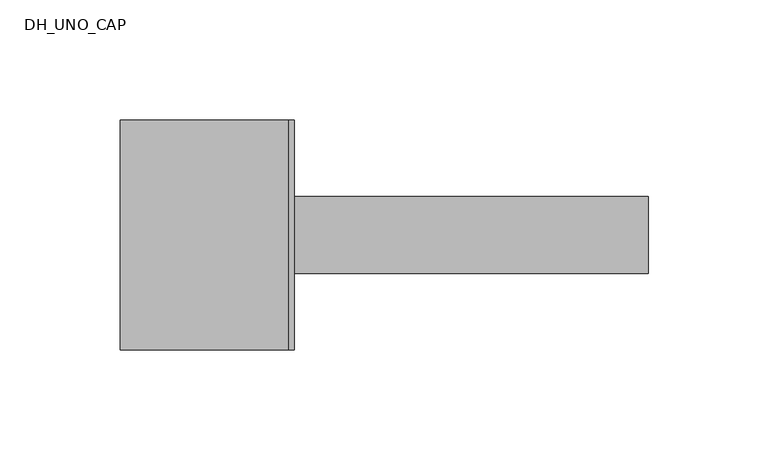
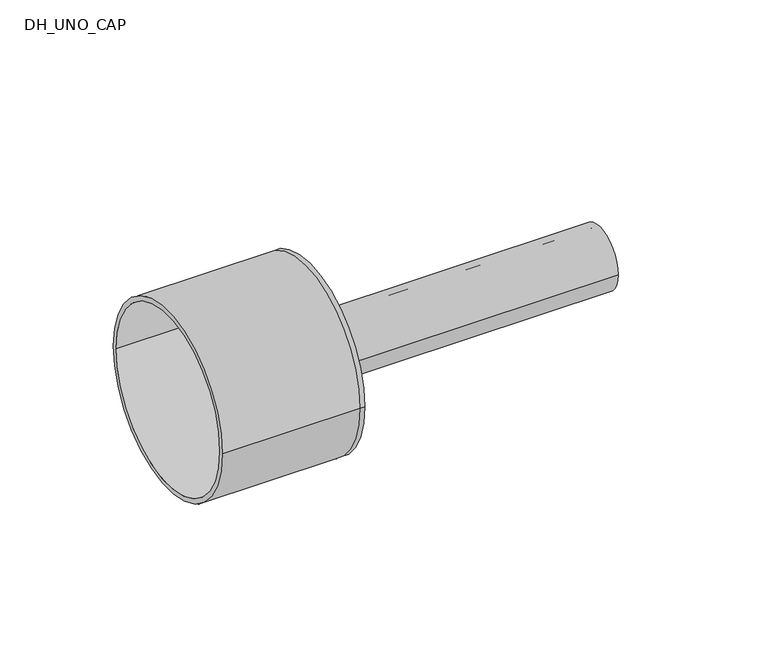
"""IFC4 building model written with IfcOpenShell, lengths in millimetres: pipe fitting geometry, DH_UNO_CAP : RAUTHERMEX UNO + 11 Heating - Solid Cap."""

import ifcopenshell
import ifcopenshell.guid

model = None  # the IFC model being written
_history = None  # IfcOwnerHistory: only IFC2X3 demands one
_inside = {}  # id of a spatial element -> (the spatial element, [elements in it])
_under = {}  # id of a project, library or spatial element -> (it, [spatial elements below it])
_declared = {}  # id of a project -> (the project, [libraries it declares])
_typed = {}  # id of a type object -> (the type object, [elements of that type])
_made_of = {}  # id of a material, layer set ... -> (it, [elements and type objects made of it])


def new_model(schema):
    """Start an empty IFC model of exactly this schema.

    Asked for "IFC4X3", IfcOpenShell would pick the latest addendum, in which some entities
    have other attributes; the version numbers below select the first issue.
    IFC2X3 requires an IfcOwnerHistory on every rooted entity: one is made here for all.
    """
    global model, _history
    if schema == "IFC4X3":
        model = ifcopenshell.file(schema_version=(4, 3, 0, 0))
    else:
        model = ifcopenshell.file(schema=schema)
    _inside.clear()
    _under.clear()
    _declared.clear()
    _typed.clear()
    _made_of.clear()
    _history = None
    if model.schema == "IFC2X3":
        org = make("IfcOrganization", Name="unknown")
        user = make(
            "IfcPersonAndOrganization",
            ThePerson=make("IfcPerson", FamilyName="unknown"),
            TheOrganization=org,
        )
        app = make(
            "IfcApplication",
            ApplicationDeveloper=org,
            Version="unknown",
            ApplicationFullName="unknown",
            ApplicationIdentifier="unknown",
        )
        _history = make(
            "IfcOwnerHistory",
            OwningUser=user,
            OwningApplication=app,
            ChangeAction="ADDED",
            CreationDate=0,
        )
    return model


def make(cls, **values):
    """One entity of the class cls with the attributes given. An attribute that is None is left unset."""
    return model.create_entity(
        cls, **{name: value for name, value in values.items() if value is not None}
    )


def rooted(cls, **values):
    """An entity with a GlobalId (a new one), such as an element, a storey or a relation."""
    return make(cls, GlobalId=ifcopenshell.guid.new(), OwnerHistory=_history, **values)


def si_unit(unit_type, name, prefix=None):
    """IfcSIUnit, for example si_unit("LENGTHUNIT", "METRE", prefix="MILLI")."""
    return make("IfcSIUnit", UnitType=unit_type, Prefix=prefix, Name=name)


def assignment(units):
    """IfcUnitAssignment: the units of a project."""
    return None if units is None else make("IfcUnitAssignment", Units=units)


def point(xyz):
    """IfcCartesianPoint."""
    return None if xyz is None else make("IfcCartesianPoint", Coordinates=xyz)


def direction(xyz):
    """IfcDirection."""
    return None if xyz is None else make("IfcDirection", DirectionRatios=xyz)


def frame(location, z_axis=None, x_axis=None):
    """IfcAxis2Placement3D, a coordinate frame: its origin and axes. An axis left out is left unset."""
    return make(
        "IfcAxis2Placement3D",
        Location=point(location),
        Axis=direction(z_axis),
        RefDirection=direction(x_axis),
    )


def frame_2d(location, x_axis=None):
    """IfcAxis2Placement2D, a coordinate frame in the plane: its origin and x axis."""
    return make(
        "IfcAxis2Placement2D", Location=point(location), RefDirection=direction(x_axis)
    )


def origin():
    """The frame at (0, 0, 0) with its axes left unset."""
    return frame((0.0, 0.0, 0.0))


def origin_2d():
    """The frame at (0, 0) in the plane with its x axis left unset."""
    return frame_2d((0.0, 0.0))


def place(relative_to, where):
    """IfcLocalPlacement: puts the frame where relative to a parent placement (None: the world)."""
    return make(
        "IfcLocalPlacement", PlacementRelTo=relative_to, RelativePlacement=where
    )


def context(
    kind, dimensions, precision=None, world=None, true_north=None, identifier=None
):
    """IfcGeometricRepresentationContext, for example the 3D "Model" context."""
    return make(
        "IfcGeometricRepresentationContext",
        ContextIdentifier=identifier,
        ContextType=kind,
        CoordinateSpaceDimension=dimensions,
        Precision=precision,
        WorldCoordinateSystem=world,
        TrueNorth=true_north,
    )


def project(units=None, contexts=None):
    """IfcProject with its units and contexts."""
    return rooted(
        "IfcProject",
        Name="project",
        RepresentationContexts=contexts,
        UnitsInContext=assignment(units),
    )


def spatial(cls, under=None, at=None, **own):
    """A site, building, storey or space (cls), placed at a placement, below another one or the project."""
    s = rooted(cls, ObjectPlacement=at, **own)
    if under is not None:
        _under.setdefault(under.id(), (under, []))[1].append(s)
    return s


def polyline(points):
    """IfcPolyline through the points."""
    return make("IfcPolyline", Points=[point(p) for p in points])


def circle_curve(where, radius):
    """IfcCircle in the frame where."""
    return make("IfcCircle", Position=where, Radius=radius)


def trimmed(basis, trim1, trim2, sense, master):
    """IfcTrimmedCurve: the piece of a basis curve between two trims."""
    return make(
        "IfcTrimmedCurve",
        BasisCurve=basis,
        Trim1=trim1,
        Trim2=trim2,
        SenseAgreement=sense,
        MasterRepresentation=master,
    )


def segment(curve, same_sense, transition):
    """IfcCompositeCurveSegment."""
    return make(
        "IfcCompositeCurveSegment",
        Transition=transition,
        SameSense=same_sense,
        ParentCurve=curve,
    )


def composite_curve(segments, self_intersect=None):
    """IfcCompositeCurve: segments joined end to end."""
    return make("IfcCompositeCurve", Segments=segments, SelfIntersect=self_intersect)


def outline(outer, holes=None, kind="AREA"):
    """IfcArbitraryClosedProfileDef: a profile drawn as a closed curve; with holes, ...WithVoids."""
    if holes is None:
        return make("IfcArbitraryClosedProfileDef", ProfileType=kind, OuterCurve=outer)
    return make(
        "IfcArbitraryProfileDefWithVoids",
        ProfileType=kind,
        OuterCurve=outer,
        InnerCurves=holes,
    )


def extrude(swept, where, along, depth):
    """IfcExtrudedAreaSolid: the profile swept, set in the frame where, extruded along a direction by depth."""
    return make(
        "IfcExtrudedAreaSolid",
        SweptArea=swept,
        Position=where,
        ExtrudedDirection=direction(along),
        Depth=depth,
    )


def shape(context_of_items, identifier, shape_type, items):
    """IfcShapeRepresentation: the items that make up one representation, for example the "Body"."""
    return make(
        "IfcShapeRepresentation",
        ContextOfItems=context_of_items,
        RepresentationIdentifier=identifier,
        RepresentationType=shape_type,
        Items=items,
    )


def source(mapping_origin, context_of_items, identifier, shape_type, items):
    """IfcRepresentationMap: a shape defined once, which mapped items show again and again."""
    return make(
        "IfcRepresentationMap",
        MappingOrigin=mapping_origin,
        MappedRepresentation=shape(context_of_items, identifier, shape_type, items),
    )


def transform(
    local_origin,
    x_axis=None,
    y_axis=None,
    z_axis=None,
    scale=None,
    scale2=None,
    scale3=None,
    uniform=True,
):
    """IfcCartesianTransformationOperator3D, or its non-uniform kind. x_axis, y_axis, z_axis: its Axis1, 2, 3."""
    if uniform:
        return make(
            "IfcCartesianTransformationOperator3D",
            Axis1=direction(x_axis),
            Axis2=direction(y_axis),
            LocalOrigin=point(local_origin),
            Scale=scale,
            Axis3=direction(z_axis),
        )
    return make(
        "IfcCartesianTransformationOperator3DnonUniform",
        Axis1=direction(x_axis),
        Axis2=direction(y_axis),
        LocalOrigin=point(local_origin),
        Scale=scale,
        Axis3=direction(z_axis),
        Scale2=scale2,
        Scale3=scale3,
    )


def mapped(mapping_source, mapping_target):
    """IfcMappedItem: shows the shape of a source again, moved by a transform."""
    return make(
        "IfcMappedItem", MappingSource=mapping_source, MappingTarget=mapping_target
    )


def made_of(thing, what):
    """Note that an element or type object is made of a material, layer set ...; save() writes the relation."""
    if what is not None:
        _made_of.setdefault(what.id(), (what, []))[1].append(thing)
    return thing


def element(
    cls,
    number,
    at=None,
    inside=None,
    cuts=None,
    type_object=None,
    material=None,
    context=None,
    identifier="Body",
    shape_type=None,
    held_by="IfcProductDefinitionShape",
    body=None,
    shapes=None,
    **own,
):
    """One element of the class cls, such as IfcWall. Its Tag is "e" and its number.

    at: its placement. inside: the storey or other place that contains it. cuts: it is an
    opening in that element (IfcRelVoidsElement). A single representation is given by context,
    identifier, shape_type and body (its items); several are given by shapes. held_by: the class
    of the entity that holds the representations. save() writes the other relations.
    """
    e = rooted(cls, Tag="e%d" % number, ObjectPlacement=at, **own)
    if body is not None:
        shapes = [shape(context, identifier, shape_type, body)]
    if shapes is not None:
        e.Representation = make(held_by, Representations=shapes)
    if inside is not None:
        _inside.setdefault(inside.id(), (inside, []))[1].append(e)
    if cuts is not None:
        rooted(
            "IfcRelVoidsElement", RelatingBuildingElement=cuts, RelatedOpeningElement=e
        )
    if type_object is not None:
        _typed.setdefault(type_object.id(), (type_object, []))[1].append(e)
    return made_of(e, material)


def aggregate(whole, parts):
    """IfcRelAggregates: a whole, such as a stair, and the parts it consists of."""
    return rooted("IfcRelAggregates", RelatingObject=whole, RelatedObjects=parts)


def save(model, path):
    """Write the relations noted so far, then the file.

    IfcRelAggregates (storeys below a building ...), IfcRelContainedInSpatialStructure (elements
    in a storey), IfcRelDefinesByType, IfcRelAssociatesMaterial and IfcRelDeclares: one each for
    every whole, place, type object, material and project.
    """
    for whole, parts in _under.values():
        aggregate(whole, parts)
    for where, things in _inside.values():
        rooted(
            "IfcRelContainedInSpatialStructure",
            RelatedElements=things,
            RelatingStructure=where,
        )
    for kind, things in _typed.values():
        rooted("IfcRelDefinesByType", RelatedObjects=things, RelatingType=kind)
    for what, things in _made_of.values():
        rooted("IfcRelAssociatesMaterial", RelatedObjects=things, RelatingMaterial=what)
    for by, libraries in _declared.values():
        rooted("IfcRelDeclares", RelatingContext=by, RelatedDefinitions=libraries)
    model.write(path)


def plane_surface(at):
    """IfcPlane: the flat surface through the origin of the frame at, square to its z axis."""
    return make("IfcPlane", Position=at)


def cylinder_surface(at, radius):
    """IfcCylindricalSurface: all points at the distance radius from the z axis of the frame at."""
    return make("IfcCylindricalSurface", Position=at, Radius=radius)


def revolved_surface(curve, axis_point, axis_direction):
    """IfcSurfaceOfRevolution: the curve turned about the line through axis_point along axis_direction."""
    return make(
        "IfcSurfaceOfRevolution",
        SweptCurve=make("IfcArbitraryOpenProfileDef", ProfileType="CURVE", Curve=curve),
        AxisPosition=make("IfcAxis1Placement", Location=point(axis_point), Axis=direction(axis_direction)),
    )


def advanced_brep(points, edges, surfaces, faces):
    """IfcAdvancedBrep: a solid bounded by faces that lie on surfaces and meet in shared edges.

    An edge is (start, end): straight between two places in points (the first is 0);
    or (start, end, curve); or (start, end, curve, False) where it runs against its curve.
    A face is (place in surfaces, loops), or (place, loops, False) where it looks against
    its surface's normal. A loop lists edges by number (the first is 1), with a minus sign
    where the edge is run from its end to its start. The first loop is the outer one.
    """
    corners = [point(p) for p in points]
    vertices = [make("IfcVertexPoint", VertexGeometry=c) for c in corners]
    made = []
    for start, end, *more in edges:
        made.append(
            make(
                "IfcEdgeCurve",
                EdgeStart=vertices[start],
                EdgeEnd=vertices[end],
                EdgeGeometry=more[0] if more else make("IfcPolyline", Points=[corners[start], corners[end]]),
                SameSense=more[1] if len(more) > 1 else True,
            )
        )
    hull = []
    for where, loops, *sense in faces:
        bounds = []
        for j, loop in enumerate(loops):
            ring = [make("IfcOrientedEdge", EdgeElement=made[abs(k) - 1], Orientation=k > 0) for k in loop]
            bounds.append(
                make(
                    "IfcFaceOuterBound" if j == 0 else "IfcFaceBound",
                    Bound=make("IfcEdgeLoop", EdgeList=ring),
                    Orientation=True,
                )
            )
        hull.append(make("IfcAdvancedFace", Bounds=bounds, FaceSurface=surfaces[where], SameSense=sense[0] if sense else True))
    return make("IfcAdvancedBrep", Outer=make("IfcClosedShell", CfsFaces=hull))


def dh_uno_cap_45976d59(model_context):
    return source(origin(), model_context, "Body", "SolidModel", [
        extrude(outline(composite_curve([segment(trimmed(circle_curve(origin_2d(), 16.0), [point((-16.0, 0.0))], [point((16.0, 0.0))], False, "CARTESIAN"), True, "CONTINUOUS"), segment(trimmed(circle_curve(origin_2d(), 16.0), [point((16.0, 0.0))], [point((-16.0, 0.0))], False, "CARTESIAN"), True, "CONTINUOUS")], self_intersect=False), holes=[composite_curve([segment(trimmed(circle_curve(origin_2d(), 13.1), [point((-13.1, 0.0))], [point((13.1, 0.0))], True, "CARTESIAN"), True, "CONTINUOUS"), segment(trimmed(circle_curve(origin_2d(), 13.1), [point((13.1, 0.0))], [point((-13.1, 0.0))], True, "CARTESIAN"), True, "CONTINUOUS")], self_intersect=False)]), frame((0.0, 0.0, 0.0), z_axis=(1.0, 0.0, 0.0), x_axis=(0.0, 1.0, 0.0)), (0.0, 0.0, 1.0), 150.0),
        advanced_brep(
        [(-70.0, -48.0, 0.0), (-70.0, 48.0, 0.0), (-70.0, -45.5, 0.0), (-70.0, 45.5, 0.0), (0.0, -45.5, 0.0), (0.0, 45.5, 0.0), (0.0, -48.0, 0.0), (0.0, 48.0, 0.0), (0.0, 16.0, 0.0), (0.0, -16.0, 0.0), (2.5, -48.0, 0.0), (2.5, 48.0, 0.0), (2.5, -16.0, 0.0), (2.5, 16.0, 0.0)],
        [
            (0, 1, circle_curve(frame((-70.0, 0.0, 0.0), z_axis=(-1.0, 0.0, 0.0), x_axis=(0.0, 1.0, 0.0)), 48.0)),
            (1, 0, circle_curve(frame((-70.0, 0.0, 0.0), z_axis=(-1.0, 0.0, 0.0), x_axis=(0.0, 1.0, 0.0)), 48.0)),
            (2, 3, circle_curve(frame((-70.0, 0.0, 0.0), z_axis=(1.0, 0.0, 0.0), x_axis=(0.0, 1.0, 0.0)), 45.5)),
            (3, 2, circle_curve(frame((-70.0, 0.0, 0.0), z_axis=(1.0, 0.0, 0.0), x_axis=(0.0, 1.0, 0.0)), 45.5)),
            (2, 4),
            (4, 5, circle_curve(frame((0.0, 0.0, 0.0), z_axis=(1.0, 0.0, 0.0), x_axis=(0.0, 1.0, 0.0)), 45.5)),
            (5, 3),
            (5, 4, circle_curve(frame((0.0, 0.0, 0.0), z_axis=(1.0, 0.0, 0.0), x_axis=(0.0, 1.0, 0.0)), 45.5)),
            (0, 6),
            (6, 7, circle_curve(frame((0.0, 0.0, 0.0), z_axis=(-1.0, 0.0, 0.0), x_axis=(0.0, 1.0, 0.0)), 48.0)),
            (7, 1),
            (7, 6, circle_curve(frame((0.0, 0.0, 0.0), z_axis=(-1.0, 0.0, 0.0), x_axis=(0.0, 1.0, 0.0)), 48.0)),
            (8, 9, circle_curve(frame((0.0, 0.0, 0.0), z_axis=(1.0, 0.0, 0.0), x_axis=(0.0, 1.0, 0.0)), 16.0)),
            (9, 8, circle_curve(frame((0.0, 0.0, 0.0), z_axis=(1.0, 0.0, 0.0), x_axis=(0.0, 1.0, 0.0)), 16.0)),
            (10, 11, circle_curve(frame((2.5, 0.0, 0.0), z_axis=(1.0, 0.0, 0.0), x_axis=(0.0, 1.0, 0.0)), 48.0)),
            (11, 10, circle_curve(frame((2.5, 0.0, 0.0), z_axis=(1.0, 0.0, 0.0), x_axis=(0.0, 1.0, 0.0)), 48.0)),
            (12, 13, circle_curve(frame((2.5, 0.0, 0.0), z_axis=(-1.0, 0.0, 0.0), x_axis=(0.0, 1.0, 0.0)), 16.0)),
            (13, 12, circle_curve(frame((2.5, 0.0, 0.0), z_axis=(-1.0, 0.0, 0.0), x_axis=(0.0, 1.0, 0.0)), 16.0)),
            (11, 7),
            (6, 10),
            (8, 13),
            (12, 9),
        ],
        [
            plane_surface(frame((-70.0, 0.0, 0.0), z_axis=(-1.0, 0.0, 0.0), x_axis=(0.0, 0.0, 1.0))),
            revolved_surface(polyline([(0.0, 45.5, 0.0), (-70.0, 45.5, 0.0)]), (-70.0, 0.0, 0.0), (1.0, 0.0, 0.0)),
            cylinder_surface(frame((-70.0, 0.0, 0.0), z_axis=(-1.0, 0.0, 0.0), x_axis=(0.0, 1.0, 0.0)), 48.0),
            plane_surface(frame((0.0, 0.0, 0.0), z_axis=(-1.0, 0.0, 0.0), x_axis=(0.0, 0.0, 1.0))),
            plane_surface(frame((2.5, 0.0, 0.0), z_axis=(1.0, 0.0, 0.0), x_axis=(0.0, 0.0, 1.0))),
            cylinder_surface(frame((0.0, 0.0, 0.0), z_axis=(-1.0, 0.0, 0.0), x_axis=(0.0, 1.0, 0.0)), 48.0),
            revolved_surface(polyline([(0.0, 16.0, 0.0), (2.5, 16.0, 0.0)]), (0.0, 0.0, 0.0), (-1.0, 0.0, 0.0)),
        ],
        [
            (0, [[1, 2], [3, 4]]),
            (1, [[-3, 5, 6, 7]]),
            (1, [[-4, -7, 8, -5]]),
            (2, [[-1, 9, 10, 11]]),
            (2, [[-2, -11, 12, -9]]),
            (3, [[-6, -8], [13, 14]]),
            (4, [[15, 16], [17, 18]]),
            (5, [[-16, 19, -10, 20]]),
            (5, [[-15, -20, -12, -19]]),
            (6, [[21, -17, 22, -13]]),
            (6, [[-21, -14, -22, -18]]),
        ],
    ),
    ])


if __name__ == "__main__":
    model = new_model("IFC4")
    model_context = context("Model", 3, world=origin())
    ifc_project = project(units=[si_unit("LENGTHUNIT", "METRE", prefix="MILLI")], contexts=[model_context])
    site = spatial("IfcSite", under=ifc_project)
    building = spatial("IfcBuilding", under=site)
    placement = place(None, origin())
    dh_uno_cap_shape = dh_uno_cap_45976d59(model_context)
    element("IfcPipeFitting", 1, ObjectType="DH_UNO_CAP : RAUTHERMEX UNO + 11 Heating - Solid Cap", at=placement, inside=building, context=model_context, shape_type="MappedRepresentation", body=[
        mapped(dh_uno_cap_shape, transform((0.0, 0.0, 0.0), x_axis=(1.0, 0.0, 0.0), y_axis=(0.0, 1.0, 0.0), z_axis=(0.0, 0.0, 1.0))),
    ])
    save(model, "model.ifc")
